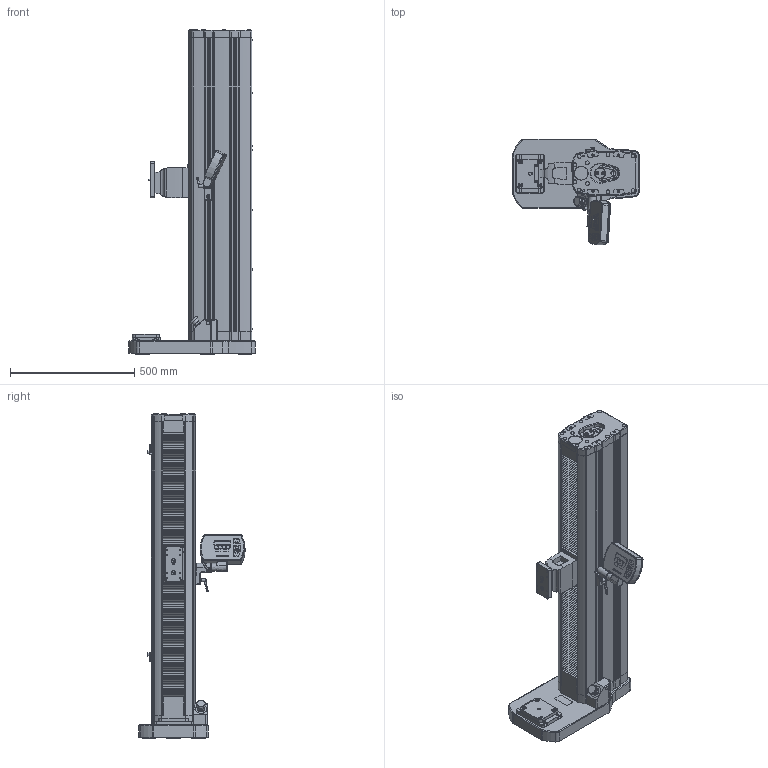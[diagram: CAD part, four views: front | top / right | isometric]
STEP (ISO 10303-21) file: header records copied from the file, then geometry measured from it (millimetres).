
FILE_DESCRIPTION((''),'2;1');
FILE_NAME('F:\CAD files\Itr\3D MARKETING MODELS\MOTORIZED TEST STANDS\ESM1500FG\ESM1500FG.stp','2017-04-18T12:46:11',('mlampen'),(''),'Autodesk Inventor 2010','Autodesk Inventor 2010','');
FILE_SCHEMA(('AUTOMOTIVE_DESIGN { 1 0 10303 214 1 1 1 1 }'));
Length unit declared in the file: inch
Products named in the file (4): ESM1500FG; Part2; Part4; Part6
Assembly tree (3 placements, depth 2):
  ESM1500FG
    Part2
    Part4
    Part6
Bounding box: 508 x 427.27 x 1305.45 mm (x, y, z)
Volume: 61129796.4 mm3; surface area: 2227591.4 mm2
Topology: 34 solids, 34 shells, 6757 faces, 17642 edges, 11428 vertices
Faces by surface type: plane 3579, cylinder 1348, bspline 1347, cone 311, torus 134, sphere 38
Full cylindrical faces by diameter (mm): 0.4 x1, 0.6 x1, 1.015 x2, 1.2 x9, 1.55 x8, 1.797 x2, 2 x4, 2.13 x1, 2.845 x22, 3.048 x14, 3.175 x2, 3.302 x4, 3.328 x1, 3.429 x14, 3.81 x4, 4.039 x8, 4.166 x2, 4.826 x2, 5.131 x1, 5.207 x4, 5.41 x14, 5.5 x2, 5.563 x2, 6.35 x24, 6.817 x10, 6.858 x5, 7.366 x2, 7.925 x1, 7.937 x1, 7.938 x20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
Entity records: 223803 total; most frequent: CARTESIAN_POINT 56750, ORIENTED_EDGE 33968, DIRECTION 30372, EDGE_CURVE 16984, VECTOR 12660, LINE 12660, VERTEX_POINT 11216, AXIS2_PLACEMENT_3D 8856
